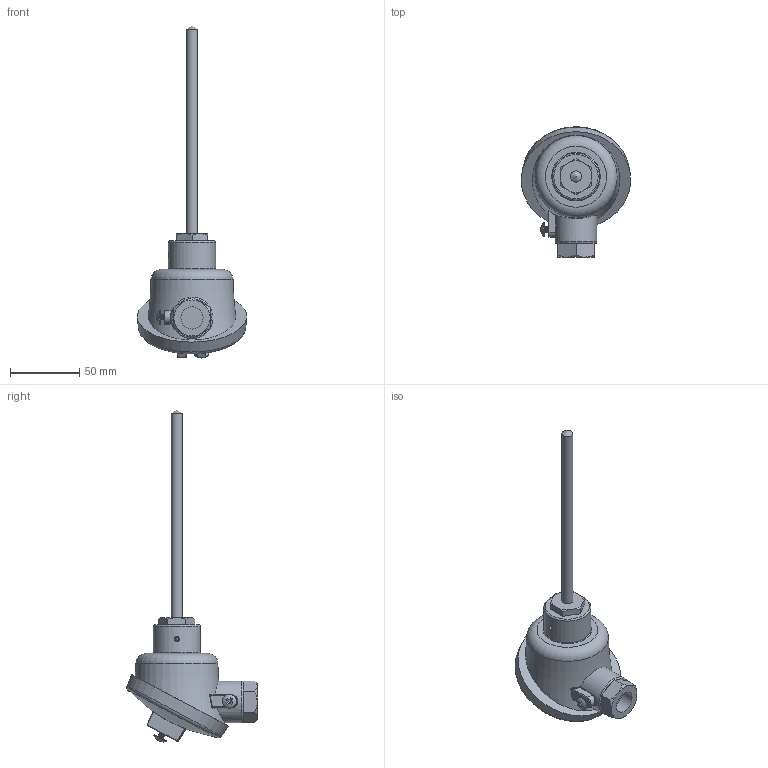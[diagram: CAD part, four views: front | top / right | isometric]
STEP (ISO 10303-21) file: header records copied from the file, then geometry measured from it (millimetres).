
FILE_DESCRIPTION (( 'STEP AP203' ), '1' );
FILE_NAME ('YIT35S-3(0).STEP', '2025-01-24T06:19:24', ( '' ), ( '' ), 'SwSTEP 2.0', 'SolidWorks 2021', '' );
FILE_SCHEMA (( 'CONFIG_CONTROL_DESIGN' ));
Length unit declared in the file: millimetre
Products named in the file (1): YIT35S-3(0)
Bounding box: 78.98 x 94.09 x 239.52 mm (x, y, z)
Volume: 206909.6 mm3; surface area: 28766.3 mm2
Topology: 1 solids, 2 shells, 195 faces, 478 edges, 296 vertices
Faces by surface type: plane 86, cylinder 47, bspline 24, cone 19, torus 11, sphere 8
Full cylindrical faces by diameter (mm): 3.5 x4, 3.6 x1, 3.8 x10, 8 x1, 10 x2, 16 x1, 18.6 x1, 20.5 x1, 30 x1, 34 x1
Entity records: 8334 total; most frequent: CARTESIAN_POINT 4581, ORIENTED_EDGE 768, DIRECTION 692, EDGE_CURVE 384, AXIS2_PLACEMENT_3D 269, VERTEX_POINT 247, EDGE_LOOP 223, FACE_OUTER_BOUND 202
